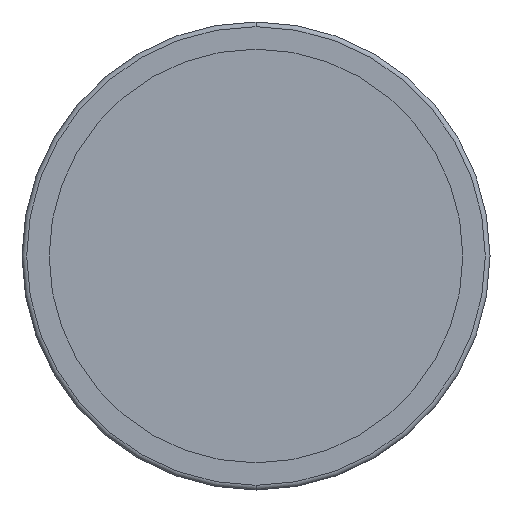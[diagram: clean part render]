
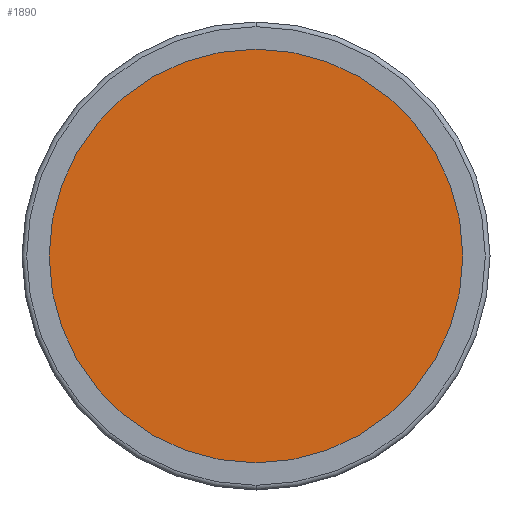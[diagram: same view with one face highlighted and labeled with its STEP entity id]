
A CAD part, front view. The second image highlights one B-rep face of the part: STEP entity #1890.
In plain terms, the highlighted planar face has unit normal (0, -1, 0).
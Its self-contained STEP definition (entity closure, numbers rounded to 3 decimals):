
#28 = DIRECTION ( 'NONE',  ( 0., 0., 1. ) ) ;
#80 = VERTEX_POINT ( 'NONE', #955 ) ;
#89 = DIRECTION ( 'NONE',  ( 0., 1., 0. ) ) ;
#196 = ORIENTED_EDGE ( 'NONE', *, *, #1669, .F. ) ;
#318 = DIRECTION ( 'NONE',  ( 0., -1., 0. ) ) ;
#378 = CIRCLE ( 'NONE', #627, 43.75 ) ;
#406 = DIRECTION ( 'NONE',  ( 0., 1., 0. ) ) ;
#627 = AXIS2_PLACEMENT_3D ( 'NONE', #2359, #89, #1821 ) ;
#651 = CARTESIAN_POINT ( 'NONE',  ( 0., -3., 0. ) ) ;
#816 = EDGE_CURVE ( 'NONE', #2117, #80, #1508, .T. ) ;
#937 = CARTESIAN_POINT ( 'NONE',  ( 0., -3., 43.75 ) ) ;
#940 = PLANE ( 'NONE',  #1834 ) ;
#947 = AXIS2_PLACEMENT_3D ( 'NONE', #651, #406, #28 ) ;
#955 = CARTESIAN_POINT ( 'NONE',  ( 0., -3., -43.75 ) ) ;
#1472 = ORIENTED_EDGE ( 'NONE', *, *, #816, .F. ) ;
#1508 = CIRCLE ( 'NONE', #947, 43.75 ) ;
#1663 = DIRECTION ( 'NONE',  ( 0., 0., -1. ) ) ;
#1669 = EDGE_CURVE ( 'NONE', #80, #2117, #378, .T. ) ;
#1821 = DIRECTION ( 'NONE',  ( 0., 0., 1. ) ) ;
#1832 = EDGE_LOOP ( 'NONE', ( #1472, #196 ) ) ;
#1834 = AXIS2_PLACEMENT_3D ( 'NONE', #1862, #318, #1663 ) ;
#1862 = CARTESIAN_POINT ( 'NONE',  ( -43.75, -3., 0. ) ) ;
#1890 = ADVANCED_FACE ( 'NONE', ( #2203 ), #940, .T. ) ;
#2117 = VERTEX_POINT ( 'NONE', #937 ) ;
#2203 = FACE_OUTER_BOUND ( 'NONE', #1832, .T. ) ;
#2359 = CARTESIAN_POINT ( 'NONE',  ( 0., -3., 0. ) ) ;
